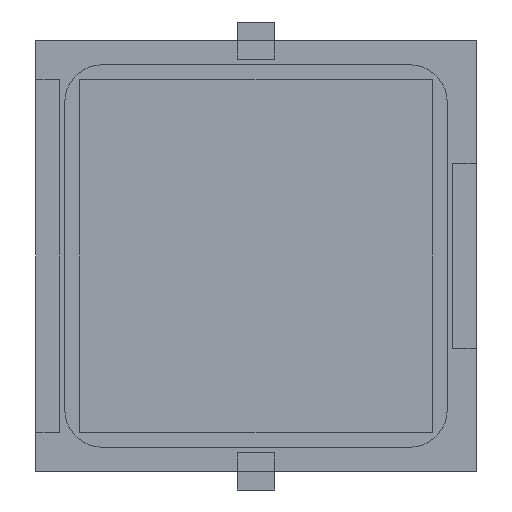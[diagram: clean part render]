
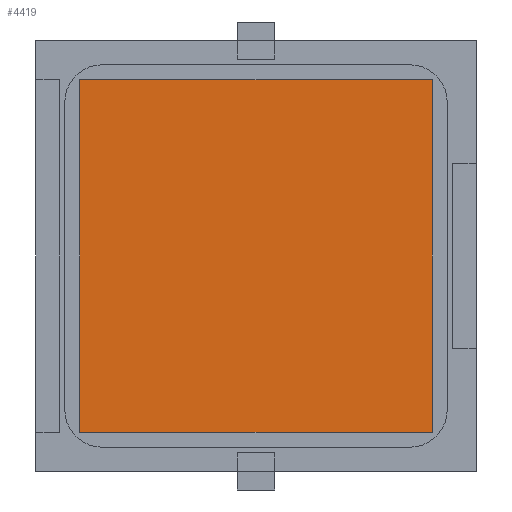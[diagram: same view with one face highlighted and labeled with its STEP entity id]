
A CAD part, front view. The second image highlights one B-rep face of the part: STEP entity #4419.
In plain terms, the highlighted planar face has unit normal (0, -1, 0).
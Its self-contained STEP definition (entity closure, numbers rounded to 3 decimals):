
#21 = LINE ( 'NONE', #2172, #1640 ) ;
#322 = EDGE_CURVE ( 'NONE', #2773, #1685, #750, .T. ) ;
#443 = CARTESIAN_POINT ( 'NONE',  ( 9.5, -0.13, 9.5 ) ) ;
#455 = EDGE_CURVE ( 'NONE', #1179, #2872, #1553, .T. ) ;
#546 = AXIS2_PLACEMENT_3D ( 'NONE', #443, #3066, #3099 ) ;
#582 = VECTOR ( 'NONE', #826, 1000. ) ;
#587 = VECTOR ( 'NONE', #657, 1000. ) ;
#657 = DIRECTION ( 'NONE',  ( 1., 0., 0. ) ) ;
#669 = ORIENTED_EDGE ( 'NONE', *, *, #322, .T. ) ;
#750 = LINE ( 'NONE', #5616, #582 ) ;
#826 = DIRECTION ( 'NONE',  ( -1., 0., 0. ) ) ;
#907 = LINE ( 'NONE', #2651, #993 ) ;
#993 = VECTOR ( 'NONE', #3630, 1000. ) ;
#1125 = EDGE_LOOP ( 'NONE', ( #1290, #669, #2812, #3574 ) ) ;
#1152 = PLANE ( 'NONE',  #546 ) ;
#1179 = VERTEX_POINT ( 'NONE', #3494 ) ;
#1290 = ORIENTED_EDGE ( 'NONE', *, *, #2999, .T. ) ;
#1553 = LINE ( 'NONE', #5086, #587 ) ;
#1640 = VECTOR ( 'NONE', #1765, 1000. ) ;
#1685 = VERTEX_POINT ( 'NONE', #2281 ) ;
#1765 = DIRECTION ( 'NONE',  ( 0., 0., 1. ) ) ;
#2172 = CARTESIAN_POINT ( 'NONE',  ( 9.5, -0.13, -9.5 ) ) ;
#2281 = CARTESIAN_POINT ( 'NONE',  ( -9.5, -0.13, 9.5 ) ) ;
#2651 = CARTESIAN_POINT ( 'NONE',  ( -9.5, -0.13, -9.5 ) ) ;
#2773 = VERTEX_POINT ( 'NONE', #3938 ) ;
#2812 = ORIENTED_EDGE ( 'NONE', *, *, #3597, .T. ) ;
#2817 = CARTESIAN_POINT ( 'NONE',  ( 9.5, -0.13, -9.5 ) ) ;
#2872 = VERTEX_POINT ( 'NONE', #2817 ) ;
#2999 = EDGE_CURVE ( 'NONE', #2872, #2773, #21, .T. ) ;
#3066 = DIRECTION ( 'NONE',  ( 0., -1., 0. ) ) ;
#3099 = DIRECTION ( 'NONE',  ( 0., 0., 1. ) ) ;
#3391 = FACE_OUTER_BOUND ( 'NONE', #1125, .T. ) ;
#3494 = CARTESIAN_POINT ( 'NONE',  ( -9.5, -0.13, -9.5 ) ) ;
#3574 = ORIENTED_EDGE ( 'NONE', *, *, #455, .T. ) ;
#3597 = EDGE_CURVE ( 'NONE', #1685, #1179, #907, .T. ) ;
#3630 = DIRECTION ( 'NONE',  ( 0., 0., -1. ) ) ;
#3938 = CARTESIAN_POINT ( 'NONE',  ( 9.5, -0.13, 9.5 ) ) ;
#4419 = ADVANCED_FACE ( 'NONE', ( #3391 ), #1152, .T. ) ;
#5086 = CARTESIAN_POINT ( 'NONE',  ( 9.5, -0.13, -9.5 ) ) ;
#5616 = CARTESIAN_POINT ( 'NONE',  ( 9.5, -0.13, 9.5 ) ) ;
